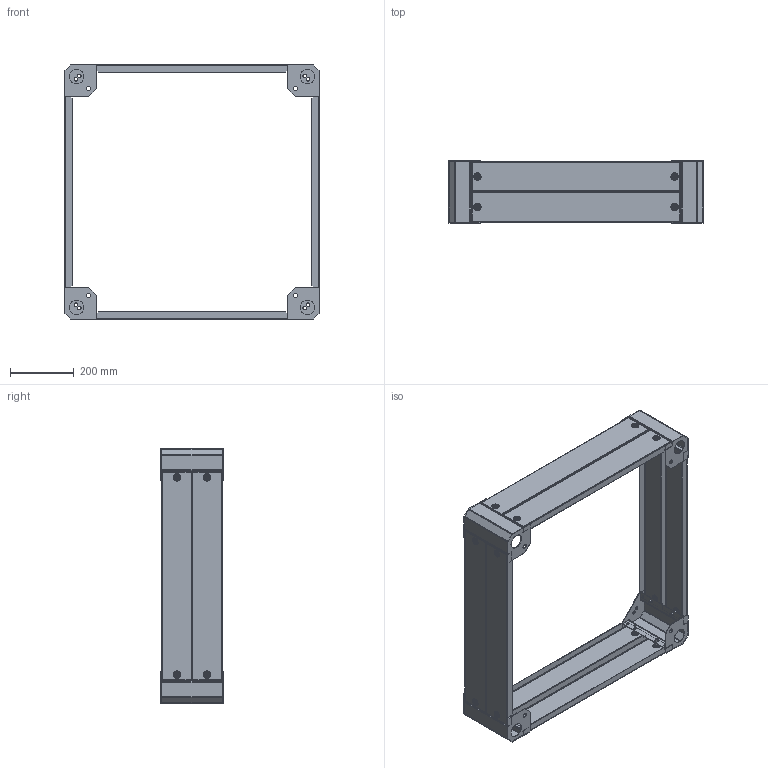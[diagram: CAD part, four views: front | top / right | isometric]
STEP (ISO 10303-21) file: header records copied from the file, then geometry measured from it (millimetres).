
FILE_DESCRIPTION (( 'STEP AP203' ), '1' );
FILE_NAME ('ZA 80.80 IH 诸觐朦 蝈脲觐祆箜桕圉桀眄.STEP', '2025-09-23T05:36:48', ( '' ), ( '' ), 'SwSTEP 2.0', 'SolidWorks 2022', '' );
FILE_SCHEMA (( 'CONFIG_CONTROL_DESIGN' ));
Length unit declared in the file: millimetre
Products named in the file (3): ZA 80.80 IH Цоколь телекоммуникационный; Z 100.600 I Панель цоколя телекоммуникационного (EPLAN)_Z 100.800 I Панель цоколя телекоммуникационного; Z 200 I Угловой элемент цоколя телекоммуникационного
Assembly tree (12 placements, depth 2):
  ZA 80.80 IH Цоколь телекоммуникационный
    Z 200 I Угловой элемент цоколя телекоммуникационного  x4
    Z 100.600 I Панель цоколя телекоммуникационного (EPLAN)_Z 100.800 I Панель цоколя телекоммуникационного  x8
Bounding box: 800.04 x 195 x 800.04 mm (x, y, z)
Volume: 1352354.4 mm3; surface area: 1973337 mm2
Topology: 28 solids, 28 shells, 1424 faces, 3560 edges, 2240 vertices
Faces by surface type: plane 704, cylinder 368, torus 192, cone 128, sphere 32
Entity records: 7435 total; most frequent: DIRECTION 1256, CARTESIAN_POINT 1197, ORIENTED_EDGE 1140, EDGE_CURVE 570, AXIS2_PLACEMENT_3D 457, VERTEX_POINT 366, LINE 342, VECTOR 342
